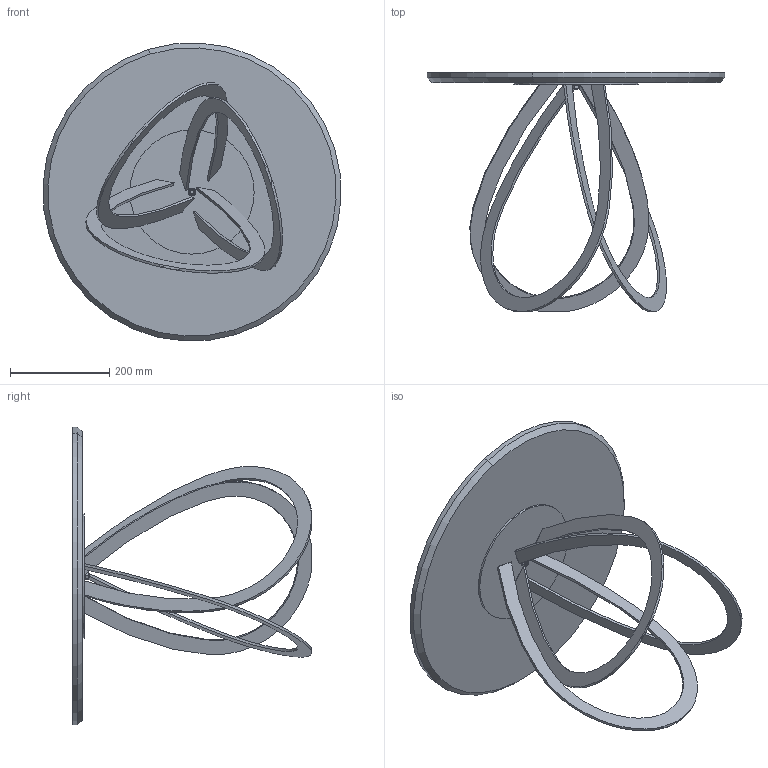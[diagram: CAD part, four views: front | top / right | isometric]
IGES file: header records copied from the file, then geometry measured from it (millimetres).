
Start section: SolidWorks IGES file using analytic representation for surfaces
Global section: file name: Y:\eforma\TECNICO\SOLIDWORKS\E-FORMA\2-TAVOLINI\FEBE LOW\02 parts\FL01M_Febe Low_d60xh48_Marble.IGS; native system: SolidWorks 2022; preprocessor: SolidWorks 2022; author: eforma.tech; date: 240806.105615; units: millimetre
Bounding box: 599.18 x 480.62 x 599.18 mm (x, y, z)
Volume: 6296544.8 mm3; surface area: 947275.5 mm2
Topology: 8 solids, 8 shells, 125 faces, 280 edges, 173 vertices
Faces by surface type: revolution 64, plane 49, bspline 12
